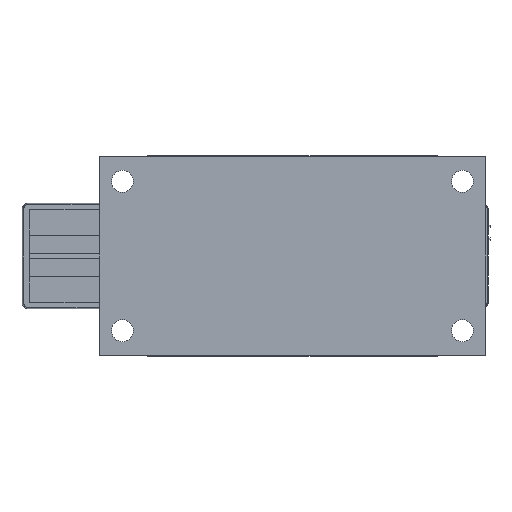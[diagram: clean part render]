
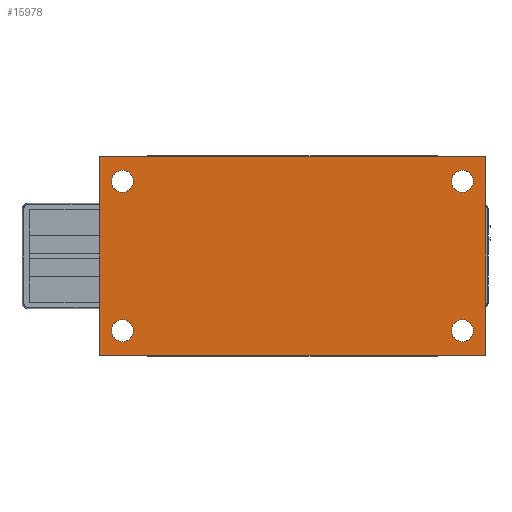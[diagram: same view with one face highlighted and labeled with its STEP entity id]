
A CAD part, front view. The second image highlights one B-rep face of the part: STEP entity #15978.
In plain terms, the highlighted planar face has unit normal (0, -1, 0).
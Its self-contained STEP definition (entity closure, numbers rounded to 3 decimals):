
#46 = FACE_BOUND ( 'NONE', #9395, .T. ) ;
#234 = CARTESIAN_POINT ( 'NONE',  ( 75., -10., -38.5 ) ) ;
#1182 = VERTEX_POINT ( 'NONE', #3790 ) ;
#1358 = VERTEX_POINT ( 'NONE', #12332 ) ;
#1579 = EDGE_CURVE ( 'NONE', #3161, #24581, #22623, .T. ) ;
#1621 = AXIS2_PLACEMENT_3D ( 'NONE', #5488, #15125, #22705 ) ;
#1934 = DIRECTION ( 'NONE',  ( 0., 0., -1. ) ) ;
#2249 = CARTESIAN_POINT ( 'NONE',  ( 75., -10., -38.5 ) ) ;
#2271 = DIRECTION ( 'NONE',  ( 0., 1., 0. ) ) ;
#2645 = EDGE_CURVE ( 'NONE', #3425, #1358, #15757, .T. ) ;
#2951 = ORIENTED_EDGE ( 'NONE', *, *, #22536, .T. ) ;
#3161 = VERTEX_POINT ( 'NONE', #23676 ) ;
#3380 = EDGE_CURVE ( 'NONE', #13633, #9669, #18704, .T. ) ;
#3425 = VERTEX_POINT ( 'NONE', #234 ) ;
#3790 = CARTESIAN_POINT ( 'NONE',  ( 75., -10., 38.5 ) ) ;
#3904 = ORIENTED_EDGE ( 'NONE', *, *, #1579, .T. ) ;
#4050 = AXIS2_PLACEMENT_3D ( 'NONE', #24964, #17312, #13197 ) ;
#4227 = AXIS2_PLACEMENT_3D ( 'NONE', #5842, #5761, #9762 ) ;
#5099 = VERTEX_POINT ( 'NONE', #14300 ) ;
#5134 = CARTESIAN_POINT ( 'NONE',  ( 66., -10., -29. ) ) ;
#5365 = ORIENTED_EDGE ( 'NONE', *, *, #3380, .T. ) ;
#5488 = CARTESIAN_POINT ( 'NONE',  ( 0., -10., 0. ) ) ;
#5687 = CARTESIAN_POINT ( 'NONE',  ( 66., -10., -29. ) ) ;
#5729 = ORIENTED_EDGE ( 'NONE', *, *, #15187, .T. ) ;
#5761 = DIRECTION ( 'NONE',  ( 0., 1., 0. ) ) ;
#5842 = CARTESIAN_POINT ( 'NONE',  ( -66., -10., 29. ) ) ;
#6053 = CARTESIAN_POINT ( 'NONE',  ( -66., -10., -29. ) ) ;
#6101 = FACE_BOUND ( 'NONE', #19337, .T. ) ;
#6956 = ORIENTED_EDGE ( 'NONE', *, *, #11749, .F. ) ;
#6970 = VERTEX_POINT ( 'NONE', #9255 ) ;
#7455 = DIRECTION ( 'NONE',  ( 0., 1., 0. ) ) ;
#7478 = ORIENTED_EDGE ( 'NONE', *, *, #12250, .F. ) ;
#7481 = CARTESIAN_POINT ( 'NONE',  ( -66., -10., -33.25 ) ) ;
#7499 = VERTEX_POINT ( 'NONE', #11648 ) ;
#7733 = AXIS2_PLACEMENT_3D ( 'NONE', #5687, #17033, #18967 ) ;
#7783 = EDGE_LOOP ( 'NONE', ( #6956, #10776, #18593, #7478 ) ) ;
#7862 = EDGE_CURVE ( 'NONE', #1182, #3425, #21870, .T. ) ;
#7905 = CARTESIAN_POINT ( 'NONE',  ( -75., -10., 38.5 ) ) ;
#7997 = DIRECTION ( 'NONE',  ( 0., 0., 1. ) ) ;
#8977 = EDGE_CURVE ( 'NONE', #6970, #17605, #13882, .T. ) ;
#9255 = CARTESIAN_POINT ( 'NONE',  ( -66., -10., 33.25 ) ) ;
#9358 = DIRECTION ( 'NONE',  ( 0., 0., 1. ) ) ;
#9395 = EDGE_LOOP ( 'NONE', ( #3904, #2951 ) ) ;
#9669 = VERTEX_POINT ( 'NONE', #7481 ) ;
#9762 = DIRECTION ( 'NONE',  ( 0., 0., -1. ) ) ;
#10046 = EDGE_LOOP ( 'NONE', ( #12424, #5729 ) ) ;
#10657 = CARTESIAN_POINT ( 'NONE',  ( 66., -10., -33.25 ) ) ;
#10677 = VECTOR ( 'NONE', #11957, 1000. ) ;
#10776 = ORIENTED_EDGE ( 'NONE', *, *, #2645, .F. ) ;
#10978 = LINE ( 'NONE', #14041, #10677 ) ;
#11146 = ORIENTED_EDGE ( 'NONE', *, *, #12329, .T. ) ;
#11206 = FACE_BOUND ( 'NONE', #23735, .T. ) ;
#11543 = DIRECTION ( 'NONE',  ( 0., 1., 0. ) ) ;
#11648 = CARTESIAN_POINT ( 'NONE',  ( 66., -10., 24.75 ) ) ;
#11749 = EDGE_CURVE ( 'NONE', #1358, #5099, #21090, .T. ) ;
#11760 = ORIENTED_EDGE ( 'NONE', *, *, #13542, .T. ) ;
#11928 = AXIS2_PLACEMENT_3D ( 'NONE', #23076, #7455, #9358 ) ;
#11957 = DIRECTION ( 'NONE',  ( 1., 0., 0. ) ) ;
#12250 = EDGE_CURVE ( 'NONE', #5099, #1182, #10978, .T. ) ;
#12329 = EDGE_CURVE ( 'NONE', #17605, #6970, #14880, .T. ) ;
#12332 = CARTESIAN_POINT ( 'NONE',  ( -75., -10., -38.5 ) ) ;
#12424 = ORIENTED_EDGE ( 'NONE', *, *, #23804, .T. ) ;
#12667 = AXIS2_PLACEMENT_3D ( 'NONE', #6053, #2271, #7997 ) ;
#12717 = VECTOR ( 'NONE', #17918, 1000. ) ;
#13197 = DIRECTION ( 'NONE',  ( 0., 0., 1. ) ) ;
#13542 = EDGE_CURVE ( 'NONE', #9669, #13633, #17082, .T. ) ;
#13633 = VERTEX_POINT ( 'NONE', #21401 ) ;
#13882 = CIRCLE ( 'NONE', #4227, 4.25 ) ;
#14041 = CARTESIAN_POINT ( 'NONE',  ( 75., -10., 38.5 ) ) ;
#14300 = CARTESIAN_POINT ( 'NONE',  ( -75., -10., 38.5 ) ) ;
#14777 = DIRECTION ( 'NONE',  ( 0., 1., 0. ) ) ;
#14880 = CIRCLE ( 'NONE', #17734, 4.25 ) ;
#15125 = DIRECTION ( 'NONE',  ( 0., 1., 0. ) ) ;
#15187 = EDGE_CURVE ( 'NONE', #7499, #15941, #15515, .T. ) ;
#15359 = CARTESIAN_POINT ( 'NONE',  ( 66., -10., 29. ) ) ;
#15515 = CIRCLE ( 'NONE', #18524, 4.25 ) ;
#15757 = LINE ( 'NONE', #2249, #12717 ) ;
#15876 = DIRECTION ( 'NONE',  ( 0., 0., 1. ) ) ;
#15941 = VERTEX_POINT ( 'NONE', #16415 ) ;
#15978 = ADVANCED_FACE ( 'NONE', ( #11206, #16023, #46, #6101, #19953 ), #18782, .F. ) ;
#16023 = FACE_BOUND ( 'NONE', #10046, .T. ) ;
#16219 = ORIENTED_EDGE ( 'NONE', *, *, #8977, .T. ) ;
#16415 = CARTESIAN_POINT ( 'NONE',  ( 66., -10., 33.25 ) ) ;
#16588 = CARTESIAN_POINT ( 'NONE',  ( -66., -10., 24.75 ) ) ;
#16764 = VECTOR ( 'NONE', #1934, 1000. ) ;
#17033 = DIRECTION ( 'NONE',  ( 0., 1., 0. ) ) ;
#17082 = CIRCLE ( 'NONE', #11928, 4.25 ) ;
#17312 = DIRECTION ( 'NONE',  ( 0., 1., 0. ) ) ;
#17605 = VERTEX_POINT ( 'NONE', #16588 ) ;
#17734 = AXIS2_PLACEMENT_3D ( 'NONE', #23679, #21426, #17735 ) ;
#17735 = DIRECTION ( 'NONE',  ( 0., 0., -1. ) ) ;
#17918 = DIRECTION ( 'NONE',  ( -1., 0., 0. ) ) ;
#18494 = AXIS2_PLACEMENT_3D ( 'NONE', #5134, #14777, #20862 ) ;
#18524 = AXIS2_PLACEMENT_3D ( 'NONE', #15359, #11543, #24886 ) ;
#18593 = ORIENTED_EDGE ( 'NONE', *, *, #7862, .F. ) ;
#18704 = CIRCLE ( 'NONE', #12667, 4.25 ) ;
#18782 = PLANE ( 'NONE',  #1621 ) ;
#18967 = DIRECTION ( 'NONE',  ( 0., 0., -1. ) ) ;
#18986 = VECTOR ( 'NONE', #15876, 1000. ) ;
#19337 = EDGE_LOOP ( 'NONE', ( #5365, #11760 ) ) ;
#19953 = FACE_OUTER_BOUND ( 'NONE', #7783, .T. ) ;
#20862 = DIRECTION ( 'NONE',  ( 0., 0., -1. ) ) ;
#21090 = LINE ( 'NONE', #7905, #18986 ) ;
#21274 = CIRCLE ( 'NONE', #4050, 4.25 ) ;
#21401 = CARTESIAN_POINT ( 'NONE',  ( -66., -10., -24.75 ) ) ;
#21426 = DIRECTION ( 'NONE',  ( 0., 1., 0. ) ) ;
#21870 = LINE ( 'NONE', #23051, #16764 ) ;
#22536 = EDGE_CURVE ( 'NONE', #24581, #3161, #22954, .T. ) ;
#22623 = CIRCLE ( 'NONE', #18494, 4.25 ) ;
#22705 = DIRECTION ( 'NONE',  ( 0., 0., 1. ) ) ;
#22954 = CIRCLE ( 'NONE', #7733, 4.25 ) ;
#23051 = CARTESIAN_POINT ( 'NONE',  ( 75., -10., 38.5 ) ) ;
#23076 = CARTESIAN_POINT ( 'NONE',  ( -66., -10., -29. ) ) ;
#23676 = CARTESIAN_POINT ( 'NONE',  ( 66., -10., -24.75 ) ) ;
#23679 = CARTESIAN_POINT ( 'NONE',  ( -66., -10., 29. ) ) ;
#23735 = EDGE_LOOP ( 'NONE', ( #16219, #11146 ) ) ;
#23804 = EDGE_CURVE ( 'NONE', #15941, #7499, #21274, .T. ) ;
#24581 = VERTEX_POINT ( 'NONE', #10657 ) ;
#24886 = DIRECTION ( 'NONE',  ( 0., 0., 1. ) ) ;
#24964 = CARTESIAN_POINT ( 'NONE',  ( 66., -10., 29. ) ) ;
